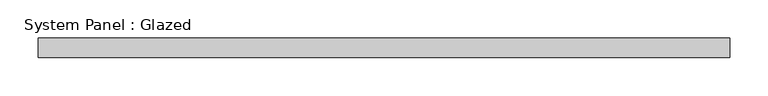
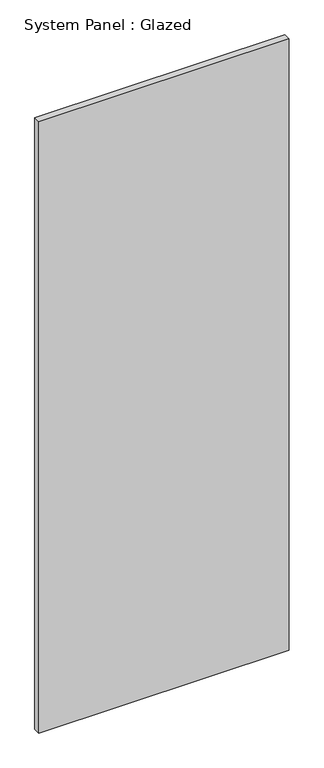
"""IFC4 building model written with IfcOpenShell, lengths in millimetres: plate geometry, System Panel : Glazed."""

from ifc_helpers import new_model, si_unit, origin, origin_with_axes, place, context, project, spatial, polyline, outline, extrude, source, transform, mapped, element, save


def system_panel_glazed_b2bd6f23(model_context):
    return source(origin(), model_context, "Body", "SweptSolid", [
        extrude(outline(polyline([(450.0, 24.5), (-450.0, 24.5), (-450.0, 49.5), (450.0, 49.5), (450.0, 24.5)])), origin_with_axes(), (0.0, 0.0, 1.0), 2325.0),
    ])


if __name__ == "__main__":
    model = new_model("IFC4")
    model_context = context("Model", 3, world=origin())
    ifc_project = project(units=[si_unit("LENGTHUNIT", "METRE", prefix="MILLI")], contexts=[model_context])
    site = spatial("IfcSite", under=ifc_project)
    building = spatial("IfcBuilding", under=site)
    placement = place(None, origin())
    system_panel_glazed_shape = system_panel_glazed_b2bd6f23(model_context)
    element("IfcPlate", 1, ObjectType="System Panel : Glazed", at=placement, inside=building, context=model_context, shape_type="MappedRepresentation", body=[
        mapped(system_panel_glazed_shape, transform((0.0, 0.0, 0.0), x_axis=(1.0, 0.0, 0.0), y_axis=(0.0, 1.0, 0.0), z_axis=(0.0, 0.0, 1.0))),
    ])
    save(model, "model.ifc")
